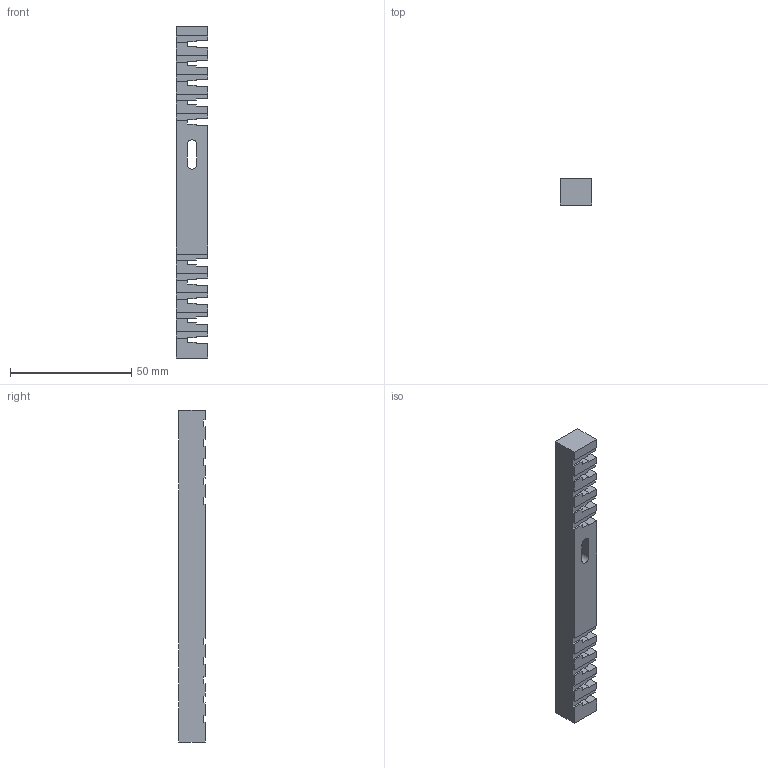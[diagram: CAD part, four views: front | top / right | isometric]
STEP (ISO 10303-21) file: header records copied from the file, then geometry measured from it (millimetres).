
FILE_DESCRIPTION(/* description */ (''),/* implementation_level */ '2;1');
FILE_NAME(/* name */ '05_common_rod_AS_PRINTED_STOCK.step',/* time_stamp */ '2026-11-14T21:40:03-08:00',/* author */ (''),/* organization */ (''),/* preprocessor_version */ 'ST-DEVELOPER v20.2',/* originating_system */ 'Autodesk Translation Framework v15.17.0.0',/* authorisation */ '');
FILE_SCHEMA (('AUTOMOTIVE_DESIGN { 1 0 10303 214 3 1 1 }'));
Length unit declared in the file: millimetre
Products named in the file (1): 2026-11-14-21-40-03-481
Bounding box: 13 x 11 x 137 mm (x, y, z)
Volume: 16131.7 mm3; surface area: 8637.8 mm2
Topology: 1 solids, 1 shells, 155 faces, 456 edges, 304 vertices
Faces by surface type: plane 153, cylinder 2
Entity records: 5091 total; most frequent: CARTESIAN_POINT 916, ORIENTED_EDGE 912, DIRECTION 772, EDGE_CURVE 456, LINE 452, VECTOR 452, VERTEX_POINT 304, AXIS2_PLACEMENT_3D 160
